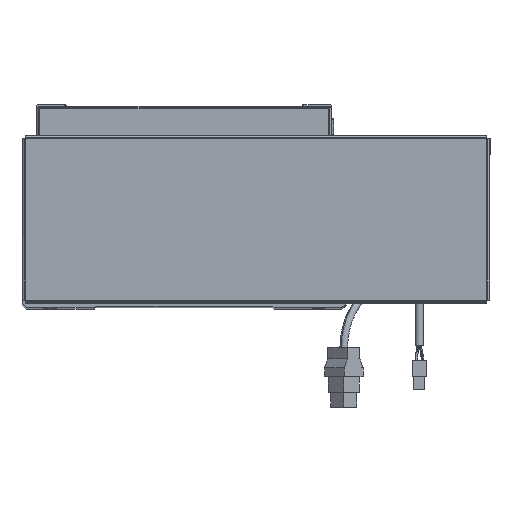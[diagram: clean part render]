
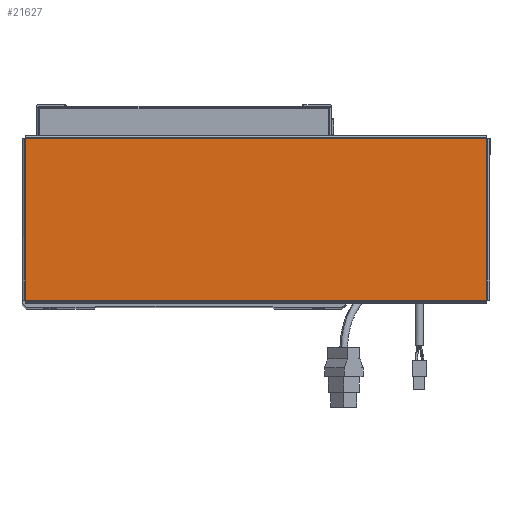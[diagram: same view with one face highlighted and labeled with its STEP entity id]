
A CAD part, top view. The second image highlights one B-rep face of the part: STEP entity #21627.
In plain terms, the highlighted planar face has unit normal (0, 0, 1).
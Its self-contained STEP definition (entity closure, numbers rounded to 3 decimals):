
#251 = CARTESIAN_POINT ( 'NONE',  ( -156.513, 54.763, 0. ) ) ;
#333 = CARTESIAN_POINT ( 'NONE',  ( -156.513, -54.763, 0. ) ) ;
#6445 = DIRECTION ( 'NONE',  ( 1., 0., 0. ) ) ;
#6455 = LINE ( 'NONE', #20972, #57643 ) ;
#6671 = DIRECTION ( 'NONE',  ( 1., 0., 0. ) ) ;
#7454 = ORIENTED_EDGE ( 'NONE', *, *, #35206, .T. ) ;
#8132 = EDGE_CURVE ( 'NONE', #20433, #31489, #60644, .T. ) ;
#8561 = EDGE_LOOP ( 'NONE', ( #53176, #7454, #8917, #23368 ) ) ;
#8917 = ORIENTED_EDGE ( 'NONE', *, *, #57279, .T. ) ;
#10152 = FACE_OUTER_BOUND ( 'NONE', #8561, .T. ) ;
#12082 = DIRECTION ( 'NONE',  ( 0., 0., 1. ) ) ;
#12511 = VERTEX_POINT ( 'NONE', #251 ) ;
#14104 = VECTOR ( 'NONE', #6445, 1000. ) ;
#18058 = CARTESIAN_POINT ( 'NONE',  ( 156.543, 54.763, 0. ) ) ;
#20433 = VERTEX_POINT ( 'NONE', #333 ) ;
#20845 = AXIS2_PLACEMENT_3D ( 'NONE', #41772, #12082, #6671 ) ;
#20972 = CARTESIAN_POINT ( 'NONE',  ( 156.513, -54.793, 0. ) ) ;
#21627 = ADVANCED_FACE ( 'NONE', ( #10152 ), #40689, .T. ) ;
#23368 = ORIENTED_EDGE ( 'NONE', *, *, #30841, .T. ) ;
#24730 = LINE ( 'NONE', #18058, #62675 ) ;
#25857 = LINE ( 'NONE', #59538, #40550 ) ;
#29786 = CARTESIAN_POINT ( 'NONE',  ( 156.513, 54.763, 0. ) ) ;
#30841 = EDGE_CURVE ( 'NONE', #12511, #20433, #25857, .T. ) ;
#31489 = VERTEX_POINT ( 'NONE', #50538 ) ;
#35206 = EDGE_CURVE ( 'NONE', #31489, #60659, #6455, .T. ) ;
#36109 = CARTESIAN_POINT ( 'NONE',  ( -156.543, -54.763, 0. ) ) ;
#40550 = VECTOR ( 'NONE', #54961, 1000. ) ;
#40689 = PLANE ( 'NONE',  #20845 ) ;
#41772 = CARTESIAN_POINT ( 'NONE',  ( 0., 0., 0. ) ) ;
#42944 = DIRECTION ( 'NONE',  ( -1., 0., 0. ) ) ;
#50538 = CARTESIAN_POINT ( 'NONE',  ( 156.513, -54.763, 0. ) ) ;
#53176 = ORIENTED_EDGE ( 'NONE', *, *, #8132, .T. ) ;
#54961 = DIRECTION ( 'NONE',  ( 0., -1., 0. ) ) ;
#55625 = DIRECTION ( 'NONE',  ( 0., 1., 0. ) ) ;
#57279 = EDGE_CURVE ( 'NONE', #60659, #12511, #24730, .T. ) ;
#57643 = VECTOR ( 'NONE', #55625, 1000. ) ;
#59538 = CARTESIAN_POINT ( 'NONE',  ( -156.513, 54.793, 0. ) ) ;
#60644 = LINE ( 'NONE', #36109, #14104 ) ;
#60659 = VERTEX_POINT ( 'NONE', #29786 ) ;
#62675 = VECTOR ( 'NONE', #42944, 1000. ) ;
